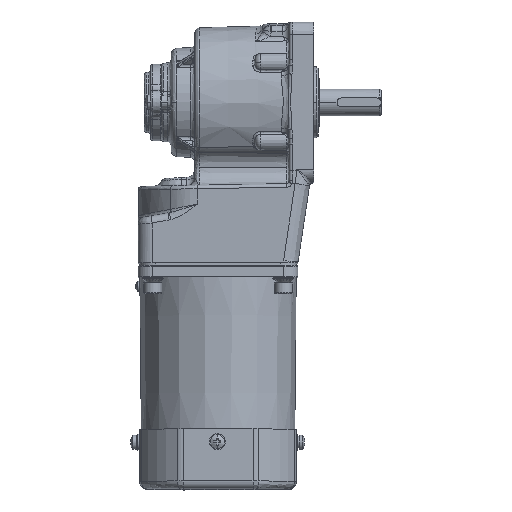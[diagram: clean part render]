
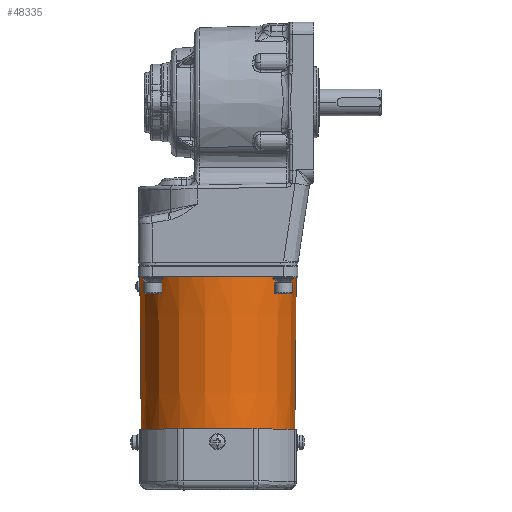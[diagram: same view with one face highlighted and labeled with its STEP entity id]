
A CAD part, top view. The second image highlights one B-rep face of the part: STEP entity #48335.
In plain terms, the highlighted conical face has half-angle 0.503 degrees and reference radius 44 mm.
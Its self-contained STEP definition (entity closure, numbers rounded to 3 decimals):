
#911 = CARTESIAN_POINT ( 'NONE',  ( 26.603, 7.803, 118.808 ) ) ;
#1791 = EDGE_LOOP ( 'NONE', ( #34923, #5055, #61673, #37538, #17457 ) ) ;
#2493 = LINE ( 'NONE', #61626, #35765 ) ;
#3403 = CARTESIAN_POINT ( 'NONE',  ( 26.603, 7.803, 206.808 ) ) ;
#4478 = CARTESIAN_POINT ( 'NONE',  ( 16.603, 7.803, 206.721 ) ) ;
#5055 = ORIENTED_EDGE ( 'NONE', *, *, #57035, .T. ) ;
#10294 = DIRECTION ( 'NONE',  ( 1., 0., -0.009 ) ) ;
#10803 = CIRCLE ( 'NONE', #26198, 44. ) ;
#15813 = EDGE_CURVE ( 'NONE', #52505, #65937, #2493, .T. ) ;
#17457 = ORIENTED_EDGE ( 'NONE', *, *, #15813, .T. ) ;
#17654 = CARTESIAN_POINT ( 'NONE',  ( 26.603, 7.803, 206.808 ) ) ;
#18578 = DIRECTION ( 'NONE',  ( -1., 0., -0.009 ) ) ;
#23163 = VERTEX_POINT ( 'NONE', #83137 ) ;
#23604 = EDGE_CURVE ( 'NONE', #29159, #56179, #69113, .T. ) ;
#23811 = CARTESIAN_POINT ( 'NONE',  ( -60.397, 7.803, 119.572 ) ) ;
#26198 = AXIS2_PLACEMENT_3D ( 'NONE', #70066, #28407, #76850 ) ;
#27526 = AXIS2_PLACEMENT_3D ( 'NONE', #71334, #29719, #78104 ) ;
#28407 = DIRECTION ( 'NONE',  ( -1., 0., 0. ) ) ;
#29159 = VERTEX_POINT ( 'NONE', #23811 ) ;
#29719 = DIRECTION ( 'NONE',  ( 1., 0., 0. ) ) ;
#34923 = ORIENTED_EDGE ( 'NONE', *, *, #41229, .F. ) ;
#35765 = VECTOR ( 'NONE', #18578, 1000. ) ;
#37538 = ORIENTED_EDGE ( 'NONE', *, *, #57331, .T. ) ;
#37658 = DIRECTION ( 'NONE',  ( 0., 0., -1. ) ) ;
#37694 = LINE ( 'NONE', #3403, #53485 ) ;
#37958 = DIRECTION ( 'NONE',  ( 1., 0., 0. ) ) ;
#39507 = AXIS2_PLACEMENT_3D ( 'NONE', #79321, #37958, #37658 ) ;
#41229 = EDGE_CURVE ( 'NONE', #23163, #65937, #37694, .T. ) ;
#44838 = CIRCLE ( 'NONE', #27526, 43.236 ) ;
#48335 = ADVANCED_FACE ( 'NONE', ( #65089 ), #67401, .T. ) ;
#52334 = DIRECTION ( 'NONE',  ( 1., 0., 0.009 ) ) ;
#52505 = VERTEX_POINT ( 'NONE', #17654 ) ;
#53485 = VECTOR ( 'NONE', #52334, 1000. ) ;
#56179 = VERTEX_POINT ( 'NONE', #911 ) ;
#57035 = EDGE_CURVE ( 'NONE', #23163, #29159, #44838, .T. ) ;
#57331 = EDGE_CURVE ( 'NONE', #56179, #52505, #10803, .T. ) ;
#61626 = CARTESIAN_POINT ( 'NONE',  ( -60.397, 7.803, 206.045 ) ) ;
#61673 = ORIENTED_EDGE ( 'NONE', *, *, #23604, .T. ) ;
#65089 = FACE_OUTER_BOUND ( 'NONE', #1791, .T. ) ;
#65937 = VERTEX_POINT ( 'NONE', #4478 ) ;
#67401 = CONICAL_SURFACE ( 'NONE', #39507, 44., 0.009 ) ;
#69113 = LINE ( 'NONE', #72938, #69956 ) ;
#69956 = VECTOR ( 'NONE', #10294, 1000. ) ;
#70066 = CARTESIAN_POINT ( 'NONE',  ( 26.603, 7.803, 162.808 ) ) ;
#71334 = CARTESIAN_POINT ( 'NONE',  ( -60.397, 7.803, 162.808 ) ) ;
#72938 = CARTESIAN_POINT ( 'NONE',  ( 26.603, 7.803, 118.808 ) ) ;
#76850 = DIRECTION ( 'NONE',  ( 0., 0., -1. ) ) ;
#78104 = DIRECTION ( 'NONE',  ( 0., 0., -1. ) ) ;
#79321 = CARTESIAN_POINT ( 'NONE',  ( 26.603, 7.803, 162.808 ) ) ;
#83137 = CARTESIAN_POINT ( 'NONE',  ( -60.397, 7.803, 206.045 ) ) ;
